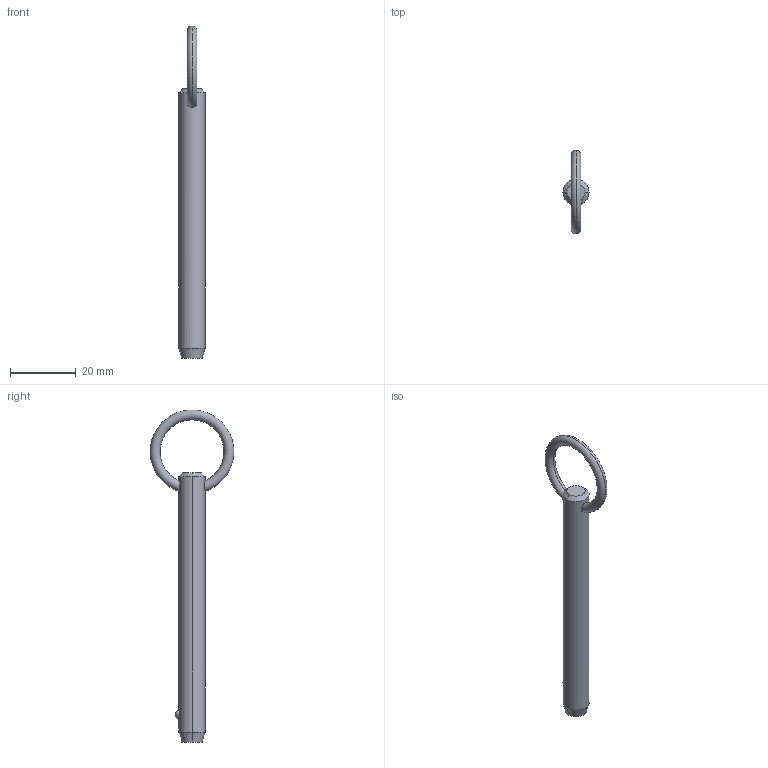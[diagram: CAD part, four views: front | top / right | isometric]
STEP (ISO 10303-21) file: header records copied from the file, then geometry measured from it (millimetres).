
FILE_DESCRIPTION (( 'STEP AP203' ), '1' );
FILE_NAME ('P1250.031-260.step', '2019-07-29T19:52:01', ( '' ), ( '' ), 'SwSTEP 2.0', 'SolidWorks 2017', '' );
FILE_SCHEMA (( 'CONFIG_CONTROL_DESIGN' ));
Length unit declared in the file: millimetre
Products named in the file (1): P1250.031-260
Bounding box: 7.93 x 25.36 x 100.91 mm (x, y, z)
Volume: 4444 mm3; surface area: 2675 mm2
Topology: 1 solids, 1 shells, 12 faces, 28 edges, 17 vertices
Faces by surface type: cone 4, torus 2, sphere 2, cylinder 2, plane 2
Entity records: 509 total; most frequent: CARTESIAN_POINT 176, DIRECTION 56, ORIENTED_EDGE 48, AXIS2_PLACEMENT_3D 25, EDGE_CURVE 24, VERTEX_POINT 15, EDGE_LOOP 15, CIRCLE 12
